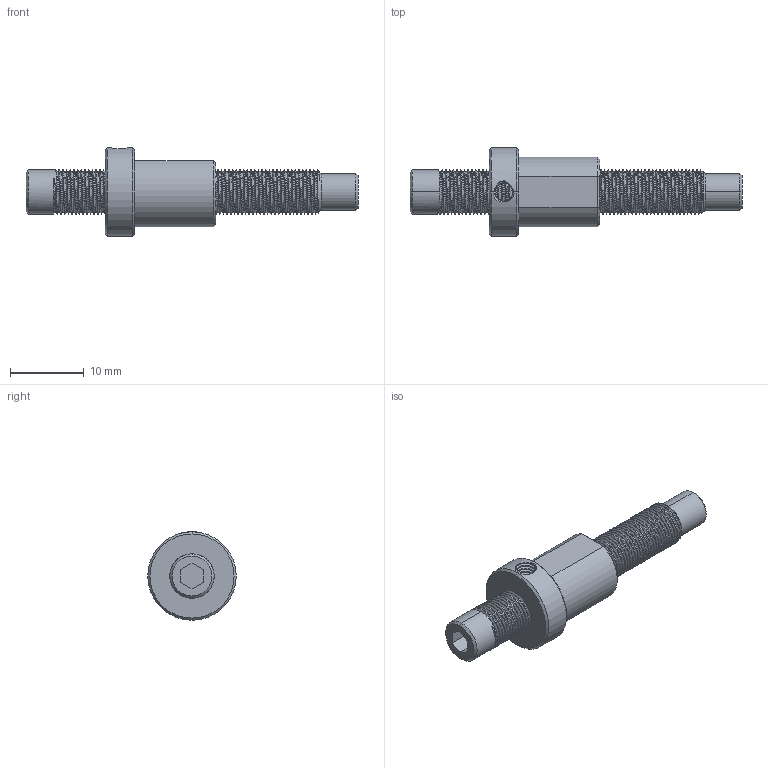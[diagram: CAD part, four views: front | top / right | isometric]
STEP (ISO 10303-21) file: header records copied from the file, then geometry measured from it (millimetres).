
FILE_DESCRIPTION((''),'2;1');
FILE_NAME('M605-L45-A_ASM','2024-11-05T17:37:22',('R&D'),(''),'CREO PARAMETRIC BY PTC INC, 2021063','CREO PARAMETRIC BY PTC INC, 2021063','');
FILE_SCHEMA(('CONFIG_CONTROL_DESIGN'));
Length unit declared in the file: millimetre
Products named in the file (3): M605-L45-A; M605-L-A; M605-L45-A_ASM
Assembly tree (2 placements, depth 2):
  M605-L45-A_ASM
    M605-L45-A
    M605-L-A
Bounding box: 45 x 12 x 12 mm (x, y, z)
Volume: 1892.4 mm3; surface area: 2353.4 mm2
Topology: 2 solids, 2 shells, 371 faces, 995 edges, 628 vertices
Faces by surface type: cylinder 220, bspline 126, plane 14, cone 11
Entity records: 34787 total; most frequent: CARTESIAN_POINT 27133, ORIENTED_EDGE 1990, EDGE_CURVE 995, DIRECTION 875, B_SPLINE_CURVE_WITH_KNOTS 646, VERTEX_POINT 628, EDGE_LOOP 375, FACE_OUTER_BOUND 371
